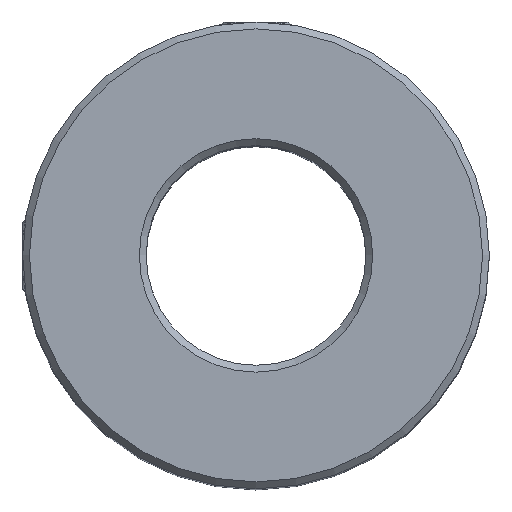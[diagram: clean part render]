
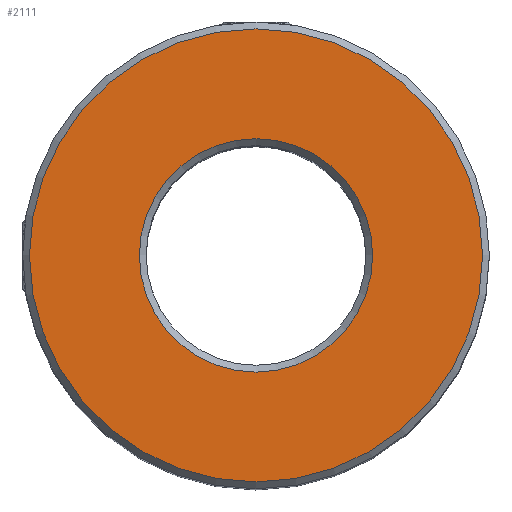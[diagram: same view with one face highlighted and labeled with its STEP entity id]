
A CAD part, top view. The second image highlights one B-rep face of the part: STEP entity #2111.
In plain terms, the highlighted planar face has unit normal (0, 0, 1).
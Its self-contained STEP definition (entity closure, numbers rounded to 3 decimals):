
#621 = AXIS2_PLACEMENT_3D ( 'NONE', #4163, #2906, #1797 ) ;
#905 = VERTEX_POINT ( 'NONE', #6301 ) ;
#1163 = FACE_BOUND ( 'NONE', #1551, .T. ) ;
#1477 = CIRCLE ( 'NONE', #6650, 8.5 ) ;
#1551 = EDGE_LOOP ( 'NONE', ( #2992 ) ) ;
#1591 = DIRECTION ( 'NONE',  ( 0., 0., -1. ) ) ;
#1797 = DIRECTION ( 'NONE',  ( 1., 0., 0. ) ) ;
#2111 = ADVANCED_FACE ( 'NONE', ( #1163, #3026 ), #7238, .T. ) ;
#2152 = EDGE_CURVE ( 'NONE', #6958, #6958, #3824, .T. ) ;
#2209 = ORIENTED_EDGE ( 'NONE', *, *, #2152, .T. ) ;
#2906 = DIRECTION ( 'NONE',  ( 0., 0., 1. ) ) ;
#2992 = ORIENTED_EDGE ( 'NONE', *, *, #3314, .T. ) ;
#3026 = FACE_OUTER_BOUND ( 'NONE', #3782, .T. ) ;
#3314 = EDGE_CURVE ( 'NONE', #905, #905, #1477, .T. ) ;
#3782 = EDGE_LOOP ( 'NONE', ( #2209 ) ) ;
#3824 = CIRCLE ( 'NONE', #621, 16.5 ) ;
#4163 = CARTESIAN_POINT ( 'NONE',  ( 0., 0., 25. ) ) ;
#4664 = CARTESIAN_POINT ( 'NONE',  ( 0., 0., 25. ) ) ;
#5836 = DIRECTION ( 'NONE',  ( 1., 0., 0. ) ) ;
#6301 = CARTESIAN_POINT ( 'NONE',  ( 8.5, 0., 25. ) ) ;
#6650 = AXIS2_PLACEMENT_3D ( 'NONE', #4664, #1591, #5836 ) ;
#6673 = AXIS2_PLACEMENT_3D ( 'NONE', #7882, #7344, #7841 ) ;
#6958 = VERTEX_POINT ( 'NONE', #6998 ) ;
#6998 = CARTESIAN_POINT ( 'NONE',  ( 16.5, 0., 25. ) ) ;
#7238 = PLANE ( 'NONE',  #6673 ) ;
#7344 = DIRECTION ( 'NONE',  ( 0., 0., 1. ) ) ;
#7841 = DIRECTION ( 'NONE',  ( 1., 0., 0. ) ) ;
#7882 = CARTESIAN_POINT ( 'NONE',  ( 0., 0., 25. ) ) ;
